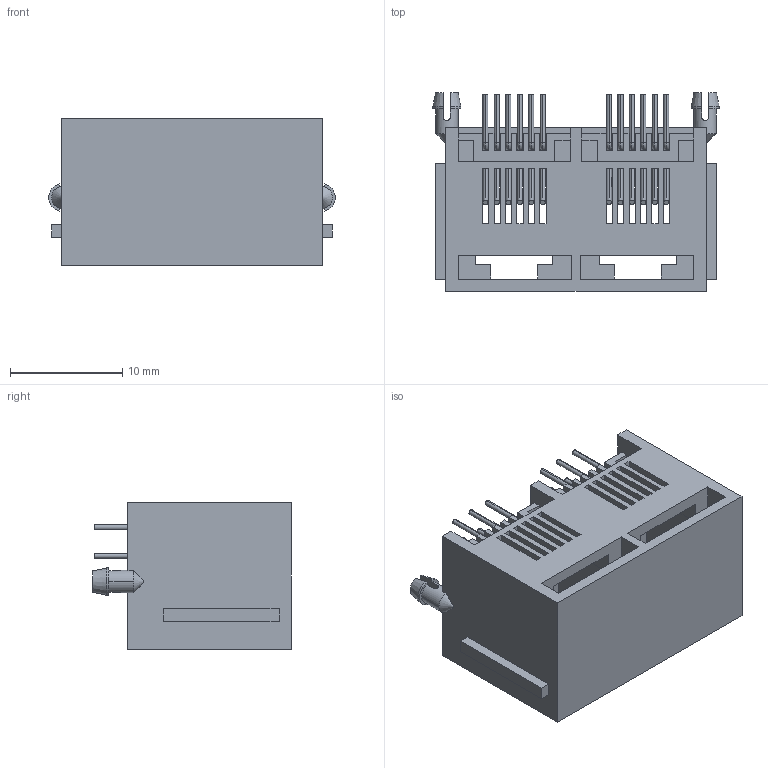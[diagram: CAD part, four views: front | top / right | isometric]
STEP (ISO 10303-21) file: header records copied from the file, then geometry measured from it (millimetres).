
FILE_DESCRIPTION((''),'2;1');
FILE_NAME('DGKYD5521E1266IWA1DY1022_ASM_AS','2022-11-07T17:00:59',('Administrator'),(''),'CREO PARAMETRIC BY PTC INC, 2019010','CREO PARAMETRIC BY PTC INC, 2019010','');
FILE_SCHEMA(('CONFIG_CONTROL_DESIGN'));
Length unit declared in the file: millimetre
Products named in the file (1): DGKYD5521E1266IWA1DY1022_ASM_AS
Bounding box: 25.5 x 17.7 x 13 mm (x, y, z)
Volume: 1670.8 mm3; surface area: 3895.3 mm2
Topology: 13 solids, 13 shells, 566 faces, 1546 edges, 972 vertices
Faces by surface type: plane 332, cylinder 156, torus 72, cone 6
Entity records: 17916 total; most frequent: CARTESIAN_POINT 3228, ORIENTED_EDGE 3092, DIRECTION 3066, EDGE_CURVE 1546, VECTOR 1126, LINE 1126, VERTEX_POINT 972, AXIS2_PLACEMENT_3D 970
